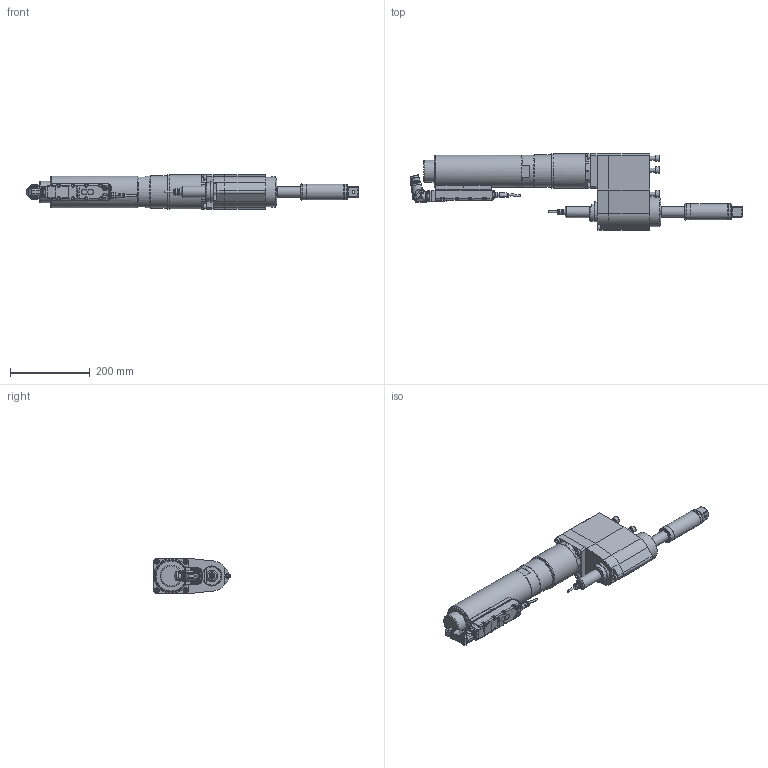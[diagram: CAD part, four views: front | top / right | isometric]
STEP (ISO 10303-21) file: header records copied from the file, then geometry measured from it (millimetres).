
FILE_DESCRIPTION (( 'STEP AP214' ), '1' );
FILE_NAME ('70082485_ESX480AODX460-1000.STEP', '2016-11-14T13:13:08', ( 'admin' ), ( '' ), 'SwSTEP 2.0', 'SolidWorks 2014', '' );
FILE_SCHEMA (( 'AUTOMOTIVE_DESIGN' ));
Length unit declared in the file: millimetre
Products named in the file (10): 7006176_3; 70082388; 70082312_ESX480_Standard_Winkel; 70082293_2; 70057493_Standard_winkel; 70057493_4; 70057493_3; 70057493_2; 70082312; 70082485_ESX480AODX460-1000
Assembly tree (9 placements, depth 4):
  70082485_ESX480AODX460-1000
    70082312_ESX480_Standard_Winkel
      70082312
      70057493_Standard_winkel
        70057493_2
        70057493_3
        70057493_4
      70082293_2
    70082388
    7006176_3
Bounding box: 834.76 x 192.92 x 88 mm (x, y, z)
Volume: 4856787.6 mm3; surface area: 350273.4 mm2
Topology: 11 solids, 11 shells, 2107 faces, 5449 edges, 3529 vertices
Faces by surface type: plane 1033, cylinder 520, bspline 262, cone 226, torus 63, sphere 3
Full cylindrical faces by diameter (mm): 0.5 x7, 0.57 x14, 2 x3, 3 x4, 4.2 x1, 4.9 x2, 5 x4, 5.5 x12, 6 x2, 6.8 x6, 8 x17, 8.459 x2, 9 x1, 9.1 x1, 10 x5, 11.08 x1, 12.3 x1, 13 x5, 14 x2, 14.5 x2, 16 x5, 17.4 x1, 20 x1, 21.15 x1, 21.5 x1, 21.7 x1, 22.3 x1, 24.3 x1, 24.75 x1, 26 x1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
Entity records: 76034 total; most frequent: CARTESIAN_POINT 26586, ORIENTED_EDGE 10068, DIRECTION 8694, EDGE_CURVE 5034, VERTEX_POINT 3406, AXIS2_PLACEMENT_3D 3173, EDGE_LOOP 2574, LINE 2348
